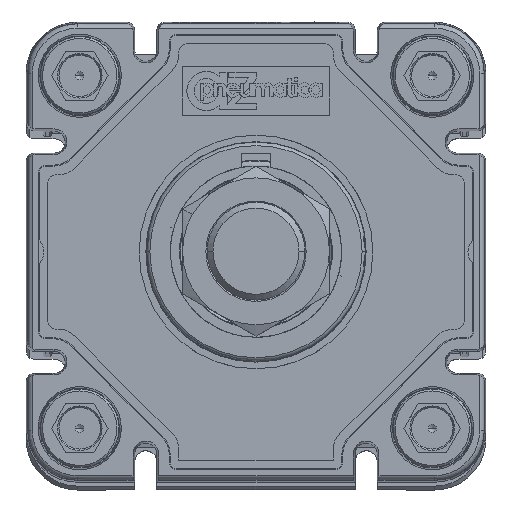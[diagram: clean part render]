
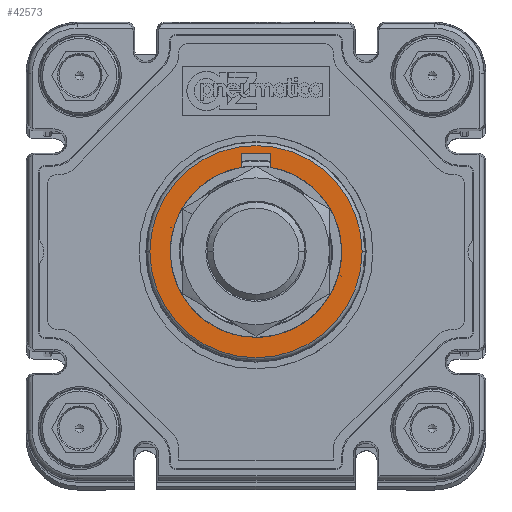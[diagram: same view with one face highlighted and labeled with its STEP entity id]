
A CAD part, top view. The second image highlights one B-rep face of the part: STEP entity #42573.
In plain terms, the highlighted planar face has unit normal (0, 0, 1) as drawn and (0, 0, -1) by its records, which use the part's own axes.
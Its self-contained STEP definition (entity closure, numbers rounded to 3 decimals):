
#57 = CARTESIAN_POINT ( 'NONE',  ( 21.674, 0., -68.1 ) ) ;
#114 = CIRCLE ( 'NONE', #35866, 21.674 ) ;
#573 = DIRECTION ( 'NONE',  ( -1., 0., 0. ) ) ;
#2343 = EDGE_CURVE ( 'NONE', #15048, #98939, #47636, .T. ) ;
#2561 = EDGE_LOOP ( 'NONE', ( #70006, #70088 ) ) ;
#2923 = FACE_BOUND ( 'NONE', #67123, .T. ) ;
#6111 = LINE ( 'NONE', #9314, #54025 ) ;
#7021 = EDGE_CURVE ( 'NONE', #97140, #15048, #23243, .T. ) ;
#7700 = DIRECTION ( 'NONE',  ( 0., 1., 0. ) ) ;
#8243 = CARTESIAN_POINT ( 'NONE',  ( 0., 0., -68.1 ) ) ;
#8518 = VERTEX_POINT ( 'NONE', #32797 ) ;
#9314 = CARTESIAN_POINT ( 'NONE',  ( 3., 20., -68.1 ) ) ;
#15048 = VERTEX_POINT ( 'NONE', #56965 ) ;
#18423 = CARTESIAN_POINT ( 'NONE',  ( -21.674, 0., -68.1 ) ) ;
#19258 = VERTEX_POINT ( 'NONE', #18423 ) ;
#20559 = DIRECTION ( 'NONE',  ( 0., 0., 1. ) ) ;
#23243 = LINE ( 'NONE', #48969, #84281 ) ;
#24925 = AXIS2_PLACEMENT_3D ( 'NONE', #8243, #70419, #573 ) ;
#25200 = EDGE_CURVE ( 'NONE', #72498, #8518, #57293, .T. ) ;
#27393 = CARTESIAN_POINT ( 'NONE',  ( 0., 0., -68.1 ) ) ;
#30156 = CARTESIAN_POINT ( 'NONE',  ( 3., 20., -68.1 ) ) ;
#32068 = CARTESIAN_POINT ( 'NONE',  ( -3., 20., -68.1 ) ) ;
#32797 = CARTESIAN_POINT ( 'NONE',  ( 3., 20., -68.1 ) ) ;
#34041 = FACE_OUTER_BOUND ( 'NONE', #2561, .T. ) ;
#34191 = DIRECTION ( 'NONE',  ( 0., 0., 1. ) ) ;
#34295 = EDGE_CURVE ( 'NONE', #19258, #84322, #114, .T. ) ;
#35509 = AXIS2_PLACEMENT_3D ( 'NONE', #27393, #80864, #71871 ) ;
#35866 = AXIS2_PLACEMENT_3D ( 'NONE', #82667, #69597, #46942 ) ;
#35961 = AXIS2_PLACEMENT_3D ( 'NONE', #65971, #20559, #42042 ) ;
#41791 = ORIENTED_EDGE ( 'NONE', *, *, #51636, .T. ) ;
#42042 = DIRECTION ( 'NONE',  ( -1., 0., 0. ) ) ;
#42573 = ADVANCED_FACE ( 'NONE', ( #34041, #2923 ), #91491, .T. ) ;
#46942 = DIRECTION ( 'NONE',  ( -1., 0., 0. ) ) ;
#47636 = CIRCLE ( 'NONE', #35509, 17.5 ) ;
#48969 = CARTESIAN_POINT ( 'NONE',  ( -3., 20., -68.1 ) ) ;
#49593 = DIRECTION ( 'NONE',  ( 0., -1., 0. ) ) ;
#49607 = CIRCLE ( 'NONE', #68762, 17.5 ) ;
#50102 = CARTESIAN_POINT ( 'NONE',  ( 3., 17.241, -68.1 ) ) ;
#50796 = ORIENTED_EDGE ( 'NONE', *, *, #2343, .T. ) ;
#51636 = EDGE_CURVE ( 'NONE', #8518, #97140, #6111, .T. ) ;
#54025 = VECTOR ( 'NONE', #62107, 1000. ) ;
#54151 = ORIENTED_EDGE ( 'NONE', *, *, #7021, .T. ) ;
#56922 = DIRECTION ( 'NONE',  ( 0., -1., 0. ) ) ;
#56965 = CARTESIAN_POINT ( 'NONE',  ( -3., 17.241, -68.1 ) ) ;
#57293 = LINE ( 'NONE', #30156, #76518 ) ;
#59402 = EDGE_CURVE ( 'NONE', #98939, #72498, #49607, .T. ) ;
#62107 = DIRECTION ( 'NONE',  ( -1., 0., 0. ) ) ;
#65971 = CARTESIAN_POINT ( 'NONE',  ( 0., 0., -68.1 ) ) ;
#67123 = EDGE_LOOP ( 'NONE', ( #54151, #50796, #81767, #78992, #41791 ) ) ;
#68762 = AXIS2_PLACEMENT_3D ( 'NONE', #71288, #34191, #49593 ) ;
#69597 = DIRECTION ( 'NONE',  ( 0., 0., 1. ) ) ;
#70006 = ORIENTED_EDGE ( 'NONE', *, *, #34295, .F. ) ;
#70088 = ORIENTED_EDGE ( 'NONE', *, *, #90643, .F. ) ;
#70419 = DIRECTION ( 'NONE',  ( 0., 0., -1. ) ) ;
#71288 = CARTESIAN_POINT ( 'NONE',  ( 0., 0., -68.1 ) ) ;
#71871 = DIRECTION ( 'NONE',  ( 0., -1., 0. ) ) ;
#72498 = VERTEX_POINT ( 'NONE', #50102 ) ;
#75322 = CIRCLE ( 'NONE', #35961, 21.674 ) ;
#76518 = VECTOR ( 'NONE', #7700, 1000. ) ;
#78992 = ORIENTED_EDGE ( 'NONE', *, *, #25200, .T. ) ;
#80864 = DIRECTION ( 'NONE',  ( 0., 0., 1. ) ) ;
#81767 = ORIENTED_EDGE ( 'NONE', *, *, #59402, .T. ) ;
#82667 = CARTESIAN_POINT ( 'NONE',  ( 0., 0., -68.1 ) ) ;
#84281 = VECTOR ( 'NONE', #56922, 1000. ) ;
#84322 = VERTEX_POINT ( 'NONE', #57 ) ;
#90643 = EDGE_CURVE ( 'NONE', #84322, #19258, #75322, .T. ) ;
#91491 = PLANE ( 'NONE',  #24925 ) ;
#94965 = CARTESIAN_POINT ( 'NONE',  ( 0., -17.5, -68.1 ) ) ;
#97140 = VERTEX_POINT ( 'NONE', #32068 ) ;
#98939 = VERTEX_POINT ( 'NONE', #94965 ) ;
